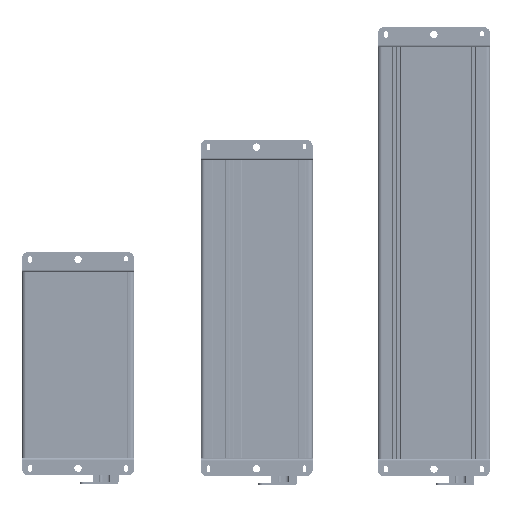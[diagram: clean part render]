
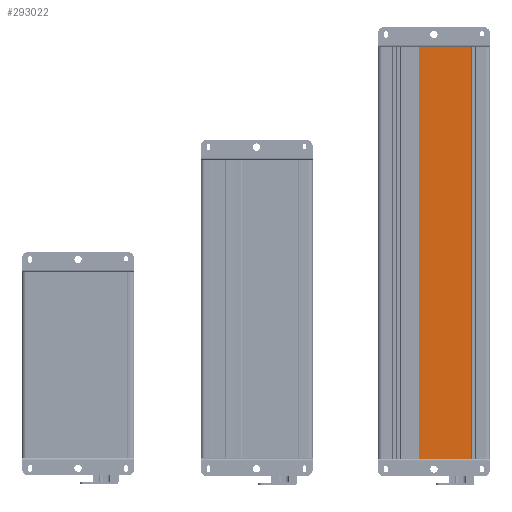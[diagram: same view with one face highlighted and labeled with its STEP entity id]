
A CAD part, front view. The second image highlights one B-rep face of the part: STEP entity #293022.
In plain terms, the highlighted planar face has unit normal (0, -1, 0).
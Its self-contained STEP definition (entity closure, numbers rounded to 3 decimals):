
#13390=PLANE('',#309430);
#23157=LINE('',#402502,#50322);
#23158=LINE('',#402505,#50323);
#23159=LINE('',#402507,#50324);
#23160=LINE('',#402508,#50325);
#50322=VECTOR('',#331915,10.);
#50323=VECTOR('',#331918,10.);
#50324=VECTOR('',#331919,10.);
#50325=VECTOR('',#331920,10.);
#80151=FACE_OUTER_BOUND('',#96118,.T.);
#96118=EDGE_LOOP('',(#193916,#193917,#193918,#193919));
#122527=VERTEX_POINT('',#402498);
#122528=VERTEX_POINT('',#402500);
#122529=VERTEX_POINT('',#402504);
#122530=VERTEX_POINT('',#402506);
#150663=EDGE_CURVE('',#122527,#122528,#23157,.T.);
#150664=EDGE_CURVE('',#122527,#122529,#23158,.T.);
#150665=EDGE_CURVE('',#122530,#122528,#23159,.T.);
#150666=EDGE_CURVE('',#122529,#122530,#23160,.T.);
#193916=ORIENTED_EDGE('',*,*,#150664,.F.);
#193917=ORIENTED_EDGE('',*,*,#150663,.T.);
#193918=ORIENTED_EDGE('',*,*,#150665,.F.);
#193919=ORIENTED_EDGE('',*,*,#150666,.F.);
#293022=ADVANCED_FACE('',(#80151),#13390,.T.);
#309430=AXIS2_PLACEMENT_3D('',#402503,#331916,#331917);
#331915=DIRECTION('',(0.,0.,1.));
#331916=DIRECTION('center_axis',(0.,-1.,0.));
#331917=DIRECTION('ref_axis',(1.,0.,0.));
#331918=DIRECTION('',(-1.,0.,0.));
#331919=DIRECTION('',(1.,0.,0.));
#331920=DIRECTION('',(0.,0.,1.));
#402498=CARTESIAN_POINT('',(152.087,-62.964,675.918));
#402500=CARTESIAN_POINT('',(152.087,-62.964,1185.918));
#402502=CARTESIAN_POINT('',(152.087,-62.964,675.918));
#402503=CARTESIAN_POINT('Origin',(87.087,-62.964,675.918));
#402504=CARTESIAN_POINT('',(87.087,-62.964,675.918));
#402505=CARTESIAN_POINT('',(96.337,-62.964,675.918));
#402506=CARTESIAN_POINT('',(87.087,-62.964,1185.918));
#402507=CARTESIAN_POINT('',(96.337,-62.964,1185.918));
#402508=CARTESIAN_POINT('',(87.087,-62.964,675.918));
